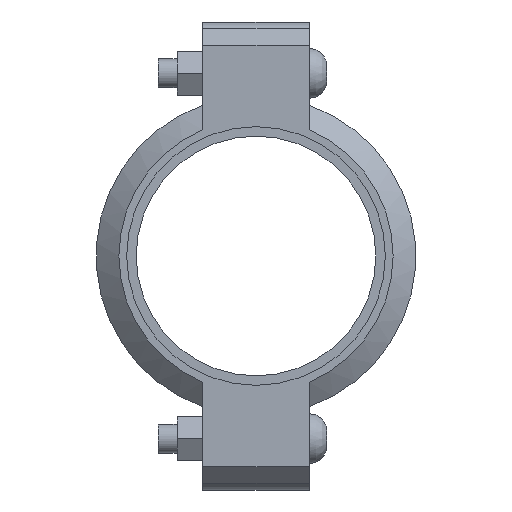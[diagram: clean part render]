
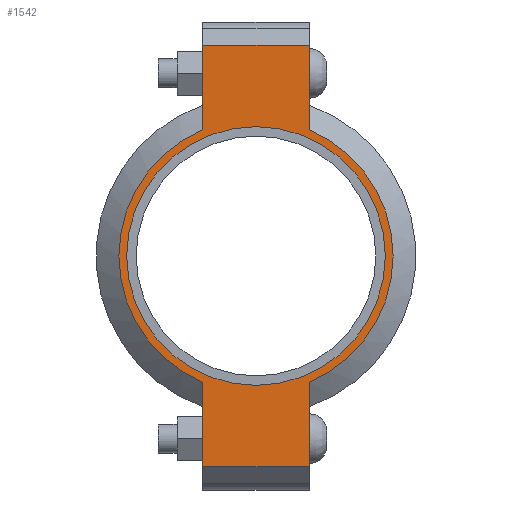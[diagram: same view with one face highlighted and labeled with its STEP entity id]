
A CAD part, left-side view. The second image highlights one B-rep face of the part: STEP entity #1542.
In plain terms, the highlighted planar face has unit normal (-1, 0, 0) as drawn and (0, 0, 1) by its records, which use the part's own axes.
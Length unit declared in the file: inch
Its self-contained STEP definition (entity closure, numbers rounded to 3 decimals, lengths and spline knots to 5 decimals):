
#166=LINE('',#2700,#259);
#174=LINE('',#2736,#267);
#181=LINE('',#2757,#274);
#190=LINE('',#2789,#283);
#191=LINE('',#2793,#284);
#192=LINE('',#2795,#285);
#259=VECTOR('',#2204,0.3937);
#267=VECTOR('',#2220,0.3937);
#274=VECTOR('',#2239,0.3937);
#283=VECTOR('',#2264,0.3937);
#284=VECTOR('',#2269,0.3937);
#285=VECTOR('',#2270,0.3937);
#341=FACE_BOUND('',#519,.T.);
#413=FACE_OUTER_BOUND('',#518,.T.);
#518=EDGE_LOOP('',(#1283,#1284,#1285,#1286,#1287,#1288,#1289,#1290));
#519=EDGE_LOOP('',(#1291));
#591=CIRCLE('',#1770,2.7815);
#617=CIRCLE('',#1829,2.95);
#618=CIRCLE('',#1830,2.95);
#683=VERTEX_POINT('',#2516);
#726=VERTEX_POINT('',#2697);
#727=VERTEX_POINT('',#2699);
#738=VERTEX_POINT('',#2731);
#739=VERTEX_POINT('',#2735);
#746=VERTEX_POINT('',#2754);
#747=VERTEX_POINT('',#2756);
#757=VERTEX_POINT('',#2792);
#758=VERTEX_POINT('',#2794);
#839=EDGE_CURVE('',#683,#683,#591,.T.);
#900=EDGE_CURVE('',#727,#726,#166,.T.);
#914=EDGE_CURVE('',#739,#738,#174,.T.);
#924=EDGE_CURVE('',#747,#746,#181,.T.);
#939=EDGE_CURVE('',#739,#726,#190,.T.);
#940=EDGE_CURVE('',#738,#747,#617,.T.);
#941=EDGE_CURVE('',#757,#746,#191,.T.);
#942=EDGE_CURVE('',#757,#758,#192,.T.);
#943=EDGE_CURVE('',#758,#727,#618,.T.);
#1283=ORIENTED_EDGE('',*,*,#939,.F.);
#1284=ORIENTED_EDGE('',*,*,#914,.T.);
#1285=ORIENTED_EDGE('',*,*,#940,.T.);
#1286=ORIENTED_EDGE('',*,*,#924,.T.);
#1287=ORIENTED_EDGE('',*,*,#941,.F.);
#1288=ORIENTED_EDGE('',*,*,#942,.T.);
#1289=ORIENTED_EDGE('',*,*,#943,.T.);
#1290=ORIENTED_EDGE('',*,*,#900,.T.);
#1291=ORIENTED_EDGE('',*,*,#839,.T.);
#1384=PLANE('',#1828);
#1542=ADVANCED_FACE('',(#413,#341),#1384,.T.);
#1770=AXIS2_PLACEMENT_3D('',#2518,#2080,#2081);
#1828=AXIS2_PLACEMENT_3D('',#2790,#2265,#2266);
#1829=AXIS2_PLACEMENT_3D('',#2791,#2267,#2268);
#1830=AXIS2_PLACEMENT_3D('',#2796,#2271,#2272);
#2080=DIRECTION('center_axis',(0.,0.,-1.));
#2081=DIRECTION('ref_axis',(1.,0.,0.));
#2204=DIRECTION('',(1.,0.,0.));
#2220=DIRECTION('',(-1.,0.,0.));
#2239=DIRECTION('',(-1.,0.,0.));
#2264=DIRECTION('',(0.,-1.,0.));
#2265=DIRECTION('center_axis',(0.,0.,1.));
#2266=DIRECTION('ref_axis',(-1.,0.,0.));
#2267=DIRECTION('center_axis',(0.,0.,1.));
#2268=DIRECTION('ref_axis',(1.,0.,0.));
#2269=DIRECTION('',(0.,1.,0.));
#2270=DIRECTION('',(1.,0.,0.));
#2271=DIRECTION('center_axis',(0.,0.,1.));
#2272=DIRECTION('ref_axis',(1.,0.,0.));
#2516=CARTESIAN_POINT('',(-2.7815,0.,1.065));
#2518=CARTESIAN_POINT('Origin',(0.,0.,1.065));
#2697=CARTESIAN_POINT('',(4.535,-1.15,1.065));
#2699=CARTESIAN_POINT('',(2.71662,-1.15,1.065));
#2700=CARTESIAN_POINT('',(5.035,-1.15,1.065));
#2731=CARTESIAN_POINT('',(2.71662,1.15,1.065));
#2735=CARTESIAN_POINT('',(4.535,1.15,1.065));
#2736=CARTESIAN_POINT('',(-5.035,1.15,1.065));
#2754=CARTESIAN_POINT('',(-4.535,1.15,1.065));
#2756=CARTESIAN_POINT('',(-2.71662,1.15,1.065));
#2757=CARTESIAN_POINT('',(-5.035,1.15,1.065));
#2789=CARTESIAN_POINT('',(4.535,-0.575,1.065));
#2790=CARTESIAN_POINT('Origin',(0.,0.,
1.065));
#2791=CARTESIAN_POINT('Origin',(0.,0.,1.065));
#2792=CARTESIAN_POINT('',(-4.535,-1.15,1.065));
#2793=CARTESIAN_POINT('',(-4.535,0.575,1.065));
#2794=CARTESIAN_POINT('',(-2.71662,-1.15,1.065));
#2795=CARTESIAN_POINT('',(5.035,-1.15,1.065));
#2796=CARTESIAN_POINT('Origin',(0.,0.,1.065));
